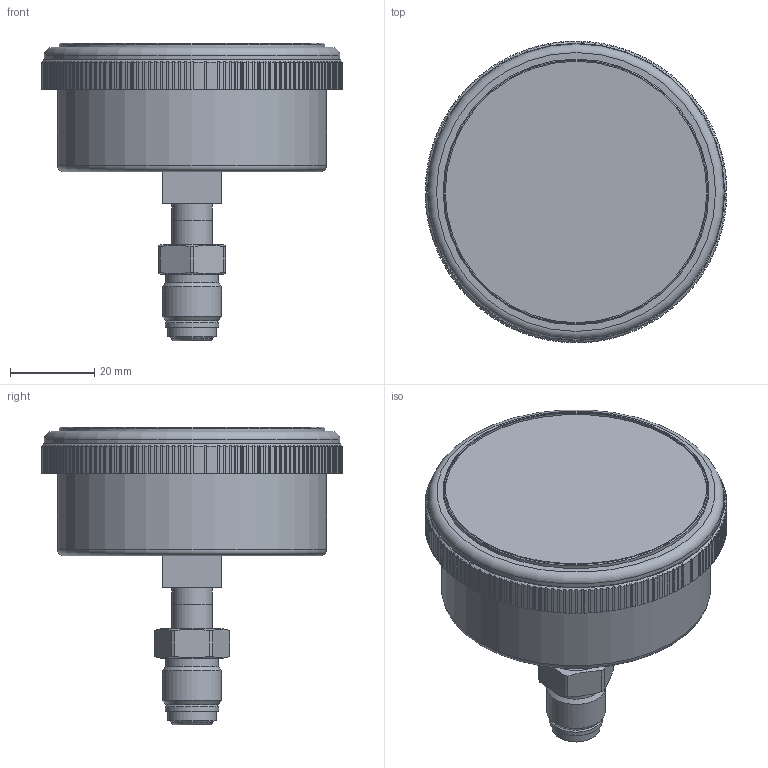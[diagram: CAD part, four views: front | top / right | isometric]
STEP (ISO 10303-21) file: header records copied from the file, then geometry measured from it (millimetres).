
FILE_DESCRIPTION(/* description */ (''),/* implementation_level */ '2;1');
FILE_NAME(/* name */ 'P800_63PI_CENTER BACK MOUNT_SWIVEL(M).stp',/* time_stamp */ '2025-04-01T08:13:42+09:00',/* author */ ('wise-209'),/* organization */ (''),/* preprocessor_version */ 'ST-DEVELOPER v19.2',/* originating_system */ 'Autodesk Inventor 2024',/* authorisation */ '');
FILE_SCHEMA (('AUTOMOTIVE_DESIGN { 1 0 10303 214 3 1 1 }'));
Length unit declared in the file: millimetre
Products named in the file (4): P820_50mm_F Type_SM_ASSY.ipt; 50pi F TYPE SHANK; COVER; 3054016361
Assembly tree (3 placements, depth 2):
  P820_50mm_F Type_SM_ASSY.ipt
    50pi F TYPE SHANK
    COVER
    3054016361
Bounding box: 71.5 x 71.5 x 70.6 mm (x, y, z)
Volume: 108948.7 mm3; surface area: 18393.8 mm2
Topology: 3 solids, 3 shells, 640 faces, 1863 edges, 1238 vertices
Faces by surface type: plane 458, cylinder 164, cone 11, torus 7
Full cylindrical faces by diameter (mm): 1 x1, 2.5 x1, 4 x1, 6.3 x1, 7.7 x1, 9.53 x2, 11.4 x1, 12.5 x1, 12.7 x1, 14 x1, 63 x1, 63.8 x1, 70.1 x1
Entity records: 23510 total; most frequent: CARTESIAN_POINT 6554, ORIENTED_EDGE 3722, DIRECTION 3342, EDGE_CURVE 1861, LINE 1344, VECTOR 1344, VERTEX_POINT 1238, AXIS2_PLACEMENT_3D 999
